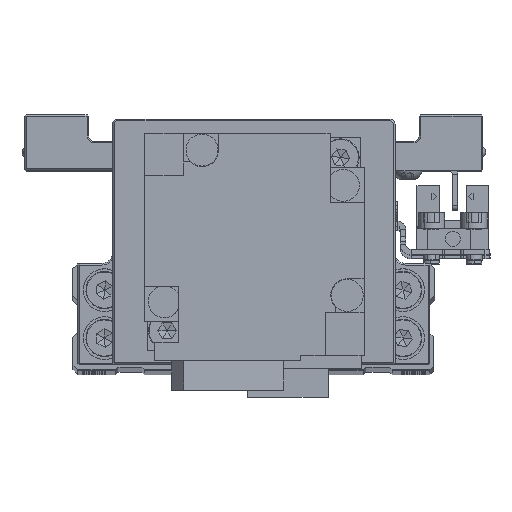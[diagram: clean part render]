
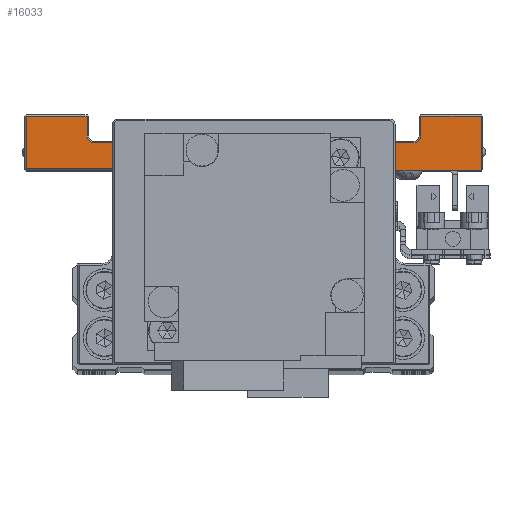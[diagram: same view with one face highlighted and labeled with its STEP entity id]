
A CAD part, top view. The second image highlights one B-rep face of the part: STEP entity #16033.
In plain terms, the highlighted planar face has unit normal (0, 0, 1) as drawn and (1, 0, 0) by its records, which use the part's own axes.
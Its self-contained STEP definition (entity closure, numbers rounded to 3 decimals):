
#586 = ORIENTED_EDGE ( 'NONE', *, *, #4495, .T. ) ;
#715 = EDGE_CURVE ( 'NONE', #26581, #18358, #25971, .T. ) ;
#927 = CARTESIAN_POINT ( 'NONE',  ( 45., 17.7, -20. ) ) ;
#963 = CARTESIAN_POINT ( 'NONE',  ( 45., 7.5, -19.7 ) ) ;
#2586 = VERTEX_POINT ( 'NONE', #18235 ) ;
#2599 = LINE ( 'NONE', #13771, #8255 ) ;
#2699 = ORIENTED_EDGE ( 'NONE', *, *, #5315, .T. ) ;
#2737 = EDGE_CURVE ( 'NONE', #20513, #26581, #33187, .T. ) ;
#2869 = VECTOR ( 'NONE', #14818, 1000. ) ;
#3308 = CARTESIAN_POINT ( 'NONE',  ( 45., 12.7, -30. ) ) ;
#3351 = LINE ( 'NONE', #14523, #33883 ) ;
#3655 = CARTESIAN_POINT ( 'NONE',  ( 45., 7.5, 42.7 ) ) ;
#3834 = LINE ( 'NONE', #14991, #14323 ) ;
#4395 = CARTESIAN_POINT ( 'NONE',  ( 45., 7.5, 19.7 ) ) ;
#4495 = EDGE_CURVE ( 'NONE', #2586, #10617, #17368, .T. ) ;
#4621 = DIRECTION ( 'NONE',  ( 0., 0., 1. ) ) ;
#4747 = CARTESIAN_POINT ( 'NONE',  ( 45., 7.5, 43. ) ) ;
#4807 = ORIENTED_EDGE ( 'NONE', *, *, #16954, .T. ) ;
#5315 = EDGE_CURVE ( 'NONE', #28326, #34207, #29436, .T. ) ;
#5848 = VERTEX_POINT ( 'NONE', #963 ) ;
#6322 = EDGE_CURVE ( 'NONE', #19938, #14975, #28709, .T. ) ;
#6729 = CARTESIAN_POINT ( 'NONE',  ( 45., -8.2, -19.7 ) ) ;
#6759 = DIRECTION ( 'NONE',  ( 0., 0., 1. ) ) ;
#6951 = LINE ( 'NONE', #18111, #32366 ) ;
#7306 = CARTESIAN_POINT ( 'NONE',  ( 45., 7.8, 19.7 ) ) ;
#7884 = DIRECTION ( 'NONE',  ( 0., -1., 0. ) ) ;
#7911 = ORIENTED_EDGE ( 'NONE', *, *, #18060, .T. ) ;
#8092 = VERTEX_POINT ( 'NONE', #6729 ) ;
#8155 = CARTESIAN_POINT ( 'NONE',  ( 45., 7.5, -42.7 ) ) ;
#8255 = VECTOR ( 'NONE', #24920, 1000. ) ;
#8755 = DIRECTION ( 'NONE',  ( 0., 0., -1. ) ) ;
#9042 = CARTESIAN_POINT ( 'NONE',  ( 45., 7.8, 42.7 ) ) ;
#9130 = LINE ( 'NONE', #20297, #16146 ) ;
#9500 = PLANE ( 'NONE',  #34726 ) ;
#10077 = ORIENTED_EDGE ( 'NONE', *, *, #26620, .T. ) ;
#10617 = VERTEX_POINT ( 'NONE', #3308 ) ;
#10807 = CARTESIAN_POINT ( 'NONE',  ( 45., 12.7, 30. ) ) ;
#10857 = CARTESIAN_POINT ( 'NONE',  ( 45., 14., -30. ) ) ;
#11223 = CARTESIAN_POINT ( 'NONE',  ( 45., 14., 31.3 ) ) ;
#11412 = ORIENTED_EDGE ( 'NONE', *, *, #6322, .T. ) ;
#12077 = DIRECTION ( 'NONE',  ( 0., 0., 1. ) ) ;
#13093 = AXIS2_PLACEMENT_3D ( 'NONE', #18519, #29663, #4621 ) ;
#13771 = CARTESIAN_POINT ( 'NONE',  ( 45., 7.5, -19.7 ) ) ;
#13965 = VECTOR ( 'NONE', #19323, 1000. ) ;
#14193 = ORIENTED_EDGE ( 'NONE', *, *, #715, .T. ) ;
#14323 = VECTOR ( 'NONE', #26135, 1000. ) ;
#14523 = CARTESIAN_POINT ( 'NONE',  ( 45., 12.7, 30. ) ) ;
#14818 = DIRECTION ( 'NONE',  ( 0., -1., 0. ) ) ;
#14975 = VERTEX_POINT ( 'NONE', #9042 ) ;
#14991 = CARTESIAN_POINT ( 'NONE',  ( 45., 7.5, 31.3 ) ) ;
#15555 = DIRECTION ( 'NONE',  ( 0., -1., 0. ) ) ;
#15899 = DIRECTION ( 'NONE',  ( 0., 0., -1. ) ) ;
#16033 = ADVANCED_FACE ( 'NONE', ( #34538 ), #9500, .F. ) ;
#16146 = VECTOR ( 'NONE', #31426, 1000. ) ;
#16159 = EDGE_CURVE ( 'NONE', #5848, #20513, #29795, .T. ) ;
#16954 = EDGE_CURVE ( 'NONE', #27975, #21783, #28842, .T. ) ;
#17033 = ORIENTED_EDGE ( 'NONE', *, *, #32739, .T. ) ;
#17368 = CIRCLE ( 'NONE', #22046, 1.3 ) ;
#17427 = VECTOR ( 'NONE', #15555, 1000. ) ;
#18060 = EDGE_CURVE ( 'NONE', #21783, #32734, #3834, .T. ) ;
#18111 = CARTESIAN_POINT ( 'NONE',  ( 45., 17.7, -20. ) ) ;
#18235 = CARTESIAN_POINT ( 'NONE',  ( 45., 14., -31.3 ) ) ;
#18358 = VERTEX_POINT ( 'NONE', #22637 ) ;
#18519 = CARTESIAN_POINT ( 'NONE',  ( 45., 14., 30. ) ) ;
#19323 = DIRECTION ( 'NONE',  ( 0., 1., 0. ) ) ;
#19938 = VERTEX_POINT ( 'NONE', #27012 ) ;
#20297 = CARTESIAN_POINT ( 'NONE',  ( 45., -8.2, -20. ) ) ;
#20513 = VERTEX_POINT ( 'NONE', #28053 ) ;
#20670 = CARTESIAN_POINT ( 'NONE',  ( 45., 7.5, -20. ) ) ;
#21484 = EDGE_CURVE ( 'NONE', #14975, #28326, #22653, .T. ) ;
#21783 = VERTEX_POINT ( 'NONE', #11223 ) ;
#21793 = LINE ( 'NONE', #32912, #22659 ) ;
#21875 = EDGE_CURVE ( 'NONE', #10617, #27975, #3351, .T. ) ;
#22025 = DIRECTION ( 'NONE',  ( -1., 0., 0. ) ) ;
#22046 = AXIS2_PLACEMENT_3D ( 'NONE', #10857, #22025, #33155 ) ;
#22147 = ORIENTED_EDGE ( 'NONE', *, *, #16159, .T. ) ;
#22637 = CARTESIAN_POINT ( 'NONE',  ( 45., 17.7, -31.3 ) ) ;
#22653 = LINE ( 'NONE', #33790, #33855 ) ;
#22659 = VECTOR ( 'NONE', #7884, 1000. ) ;
#23747 = ORIENTED_EDGE ( 'NONE', *, *, #24340, .T. ) ;
#23808 = ORIENTED_EDGE ( 'NONE', *, *, #2737, .T. ) ;
#24340 = EDGE_CURVE ( 'NONE', #8092, #5848, #2599, .T. ) ;
#24920 = DIRECTION ( 'NONE',  ( 0., 1., 0. ) ) ;
#24943 = EDGE_CURVE ( 'NONE', #34207, #8092, #9130, .T. ) ;
#25667 = DIRECTION ( 'NONE',  ( 0., 0., 1. ) ) ;
#25728 = ORIENTED_EDGE ( 'NONE', *, *, #21875, .T. ) ;
#25971 = LINE ( 'NONE', #927, #31909 ) ;
#26135 = DIRECTION ( 'NONE',  ( 0., 1., 0. ) ) ;
#26581 = VERTEX_POINT ( 'NONE', #32747 ) ;
#26620 = EDGE_CURVE ( 'NONE', #18358, #2586, #21793, .T. ) ;
#27012 = CARTESIAN_POINT ( 'NONE',  ( 45., 17.7, 42.7 ) ) ;
#27198 = ORIENTED_EDGE ( 'NONE', *, *, #24943, .T. ) ;
#27975 = VERTEX_POINT ( 'NONE', #10807 ) ;
#28053 = CARTESIAN_POINT ( 'NONE',  ( 45., 7.5, -42.7 ) ) ;
#28326 = VERTEX_POINT ( 'NONE', #7306 ) ;
#28709 = LINE ( 'NONE', #3655, #2869 ) ;
#28842 = CIRCLE ( 'NONE', #13093, 1.3 ) ;
#29250 = ORIENTED_EDGE ( 'NONE', *, *, #21484, .T. ) ;
#29254 = DIRECTION ( 'NONE',  ( 0., 0., 1. ) ) ;
#29436 = LINE ( 'NONE', #4395, #17427 ) ;
#29663 = DIRECTION ( 'NONE',  ( -1., 0., 0. ) ) ;
#29795 = LINE ( 'NONE', #4747, #35895 ) ;
#30198 = CARTESIAN_POINT ( 'NONE',  ( 45., -8.2, 19.7 ) ) ;
#31426 = DIRECTION ( 'NONE',  ( 0., 0., -1. ) ) ;
#31785 = DIRECTION ( 'NONE',  ( -1., 0., 0. ) ) ;
#31909 = VECTOR ( 'NONE', #12077, 1000. ) ;
#31973 = CARTESIAN_POINT ( 'NONE',  ( 45., 17.7, 31.3 ) ) ;
#32366 = VECTOR ( 'NONE', #29254, 1000. ) ;
#32734 = VERTEX_POINT ( 'NONE', #31973 ) ;
#32739 = EDGE_CURVE ( 'NONE', #32734, #19938, #6951, .T. ) ;
#32747 = CARTESIAN_POINT ( 'NONE',  ( 45., 17.7, -42.7 ) ) ;
#32912 = CARTESIAN_POINT ( 'NONE',  ( 45., 7.5, -31.3 ) ) ;
#33155 = DIRECTION ( 'NONE',  ( 0., 0., 1. ) ) ;
#33187 = LINE ( 'NONE', #8155, #13965 ) ;
#33790 = CARTESIAN_POINT ( 'NONE',  ( 45., 7.8, 20. ) ) ;
#33855 = VECTOR ( 'NONE', #8755, 1000. ) ;
#33883 = VECTOR ( 'NONE', #25667, 1000. ) ;
#34207 = VERTEX_POINT ( 'NONE', #30198 ) ;
#34538 = FACE_OUTER_BOUND ( 'NONE', #34994, .T. ) ;
#34726 = AXIS2_PLACEMENT_3D ( 'NONE', #20670, #31785, #6759 ) ;
#34994 = EDGE_LOOP ( 'NONE', ( #23747, #22147, #23808, #14193, #10077, #586, #25728, #4807, #7911, #17033, #11412, #29250, #2699, #27198 ) ) ;
#35895 = VECTOR ( 'NONE', #15899, 1000. ) ;
